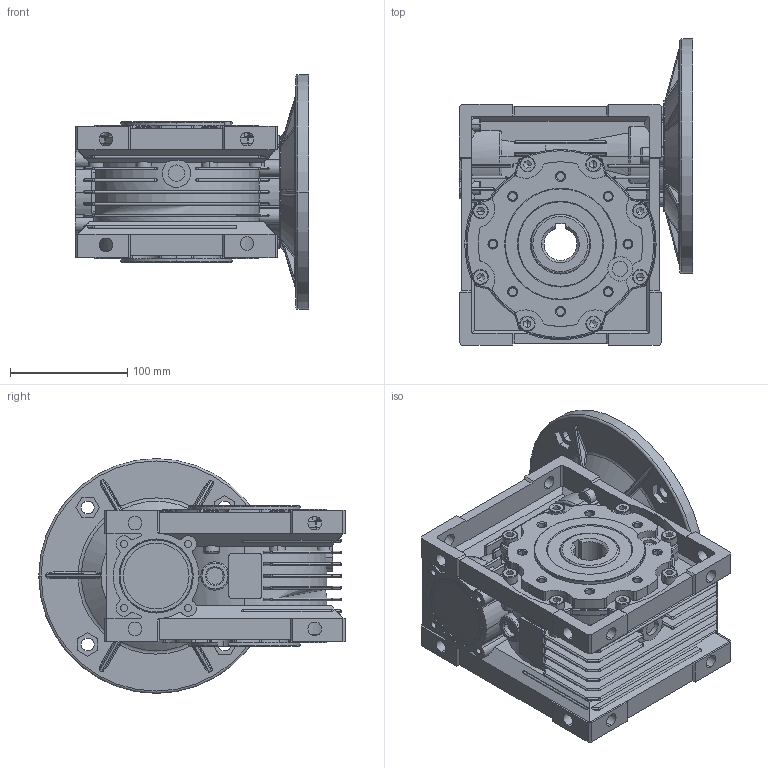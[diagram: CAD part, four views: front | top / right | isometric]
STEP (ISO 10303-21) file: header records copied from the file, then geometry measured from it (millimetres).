
FILE_DESCRIPTION(('STEP AP214'),'1');
FILE_NAME('NMRV075-90B5.stp','2020-07-27T02:21:14',(' '),(' '),'Spatial InterOp 3D',' ',' ');
FILE_SCHEMA(('automotive_design'));
Length unit declared in the file: millimetre
Products named in the file (12): 零件1; 零件2; 1; 2; 3; 4; 5; 6; 7; 8; 零件4; 零件5
Bounding box: 198.5 x 261 x 200 mm (x, y, z)
Volume: 3032700.6 mm3; surface area: 450472 mm2
Topology: 12 solids, 24 shells, 1883 faces, 4818 edges, 2933 vertices
Faces by surface type: cylinder 746, plane 617, torus 204, bspline 130, cone 127, sphere 59
Entity records: 105042 total; most frequent: CARTESIAN_POINT 44236, DIRECTION 10001, ORIENTED_EDGE 9432, EDGE_CURVE 4716, AXIS2_PLACEMENT_3D 3968, VERTEX_POINT 2933, LINE 2065, VECTOR 2065
